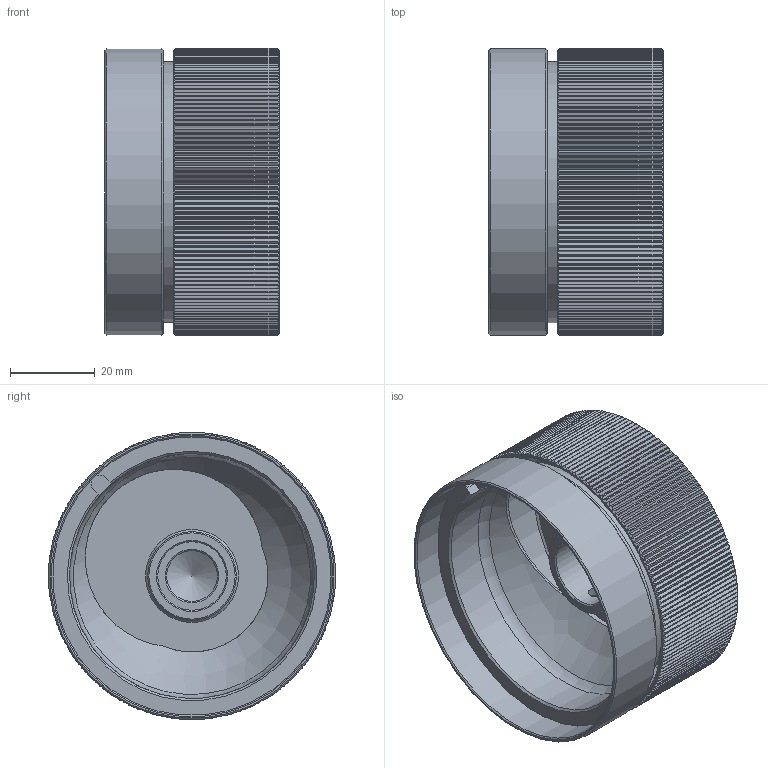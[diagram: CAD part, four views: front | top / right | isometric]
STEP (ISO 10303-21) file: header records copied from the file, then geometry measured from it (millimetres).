
FILE_DESCRIPTION(/* description */ ('Unknown'),/* implementation_level */ '2;1');
FILE_NAME(/* name */ 'RE006',/* time_stamp */ '2023-07-04T14:45:04+02:00',/* author */ ('Unknown'),/* organization */ ('Unknown'),/* preprocessor_version */ 'ST-DEVELOPER v18.102',/* originating_system */ 'Solid Edge',/* authorisation */ 'Unknown');
FILE_SCHEMA (('AUTOMOTIVE_DESIGN {1 0 10303 214 3 1 1}'));
Length unit declared in the file: millimetre
Products named in the file (4): RE006; RE006EXT_oa_0; RE006-03; RE006-04
Assembly tree (3 placements, depth 3):
  RE006
    RE006EXT_oa_0
      RE006-03
      RE006-04
Bounding box: 41.25 x 68 x 68 mm (x, y, z)
Volume: 28760.8 mm3; surface area: 33460.6 mm2
Topology: 2 solids, 2 shells, 958 faces, 2121 edges, 1172 vertices
Faces by surface type: plane 383, cone 371, cylinder 199, sphere 2, torus 2, bspline 1
Full cylindrical faces by diameter (mm): 3.242 x1, 5 x2, 6 x1, 12 x1, 16.2 x1, 21 x1, 58 x1, 62 x1, 65 x1, 66 x1, 68 x1
Entity records: 32898 total; most frequent: CARTESIAN_POINT 6529, ORIENTED_EDGE 4160, DIRECTION 4045, EDGE_CURVE 2080, AXIS2_PLACEMENT_3D 1740, VERTEX_POINT 1159, FACE_BOUND 997, EDGE_LOOP 996
